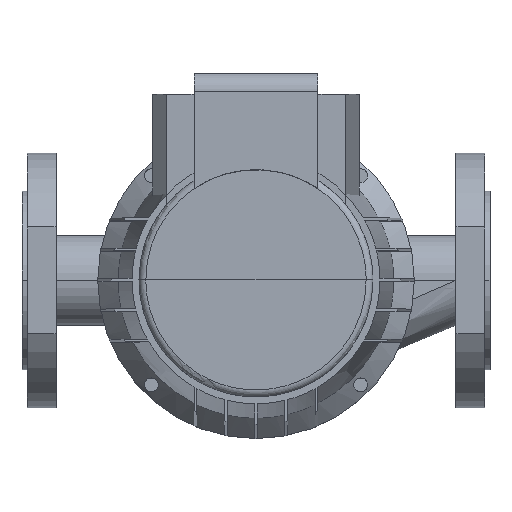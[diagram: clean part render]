
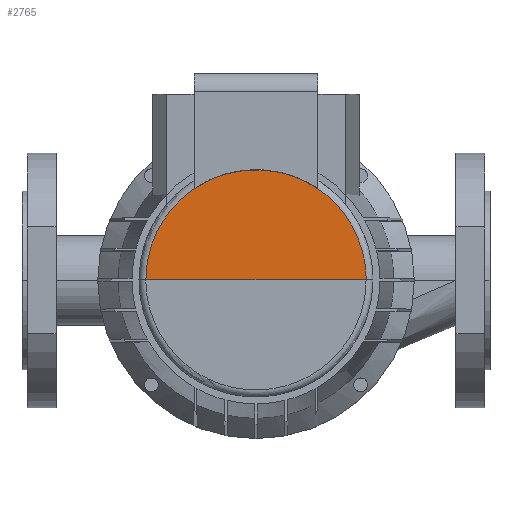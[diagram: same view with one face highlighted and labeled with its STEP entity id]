
A CAD part, top view. The second image highlights one B-rep face of the part: STEP entity #2765.
In plain terms, the highlighted planar face has unit normal (0, 0, 1).
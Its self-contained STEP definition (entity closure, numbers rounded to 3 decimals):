
#101=B_SPLINE_CURVE_WITH_KNOTS('',3,(#4302,#4303,#4304,#4305,#4306,#4307,
#4308,#4309,#4310,#4311,#4312),.UNSPECIFIED.,.F.,.F.,(4,1,1,1,1,1,1,1,4),
(0.,0.125,0.25,0.375,0.5,0.625,0.75,0.875,1.),.UNSPECIFIED.);
#198=PLANE('',#2979);
#313=FACE_OUTER_BOUND('',#492,.T.);
#492=EDGE_LOOP('',(#1924,#1925));
#668=LINE('',#4300,#877);
#877=VECTOR('',#3278,304.8);
#1196=VERTEX_POINT('',#4287);
#1197=VERTEX_POINT('',#4288);
#1473=EDGE_CURVE('',#1197,#1196,#668,.T.);
#1474=EDGE_CURVE('',#1197,#1196,#101,.T.);
#1924=ORIENTED_EDGE('',*,*,#1474,.F.);
#1925=ORIENTED_EDGE('',*,*,#1473,.T.);
#2765=ADVANCED_FACE('',(#313),#198,.T.);
#2979=AXIS2_PLACEMENT_3D('',#4301,#3279,#3280);
#3278=DIRECTION('',(1.,0.,0.));
#3279=DIRECTION('center_axis',(0.,0.,1.));
#3280=DIRECTION('ref_axis',(1.,0.,0.));
#4287=CARTESIAN_POINT('',(29448.617,-38981.239,286.));
#4288=CARTESIAN_POINT('',(29288.617,-38981.239,286.));
#4300=CARTESIAN_POINT('',(29368.617,-38981.239,286.));
#4301=CARTESIAN_POINT('Origin',(29368.617,-38981.239,286.));
#4302=CARTESIAN_POINT('Ctrl Pts',(29288.617,-38981.239,286.));
#4303=CARTESIAN_POINT('Ctrl Pts',(29288.511,-38970.725,286.));
#4304=CARTESIAN_POINT('Ctrl Pts',(29292.831,-38949.848,286.));
#4305=CARTESIAN_POINT('Ctrl Pts',(29310.562,-38923.193,286.));
#4306=CARTESIAN_POINT('Ctrl Pts',(29337.208,-38905.406,286.));
#4307=CARTESIAN_POINT('Ctrl Pts',(29368.617,-38899.156,286.));
#4308=CARTESIAN_POINT('Ctrl Pts',(29400.025,-38905.406,286.));
#4309=CARTESIAN_POINT('Ctrl Pts',(29426.671,-38923.193,286.));
#4310=CARTESIAN_POINT('Ctrl Pts',(29444.402,-38949.848,286.));
#4311=CARTESIAN_POINT('Ctrl Pts',(29448.722,-38970.725,286.));
#4312=CARTESIAN_POINT('Ctrl Pts',(29448.617,-38981.239,286.));
